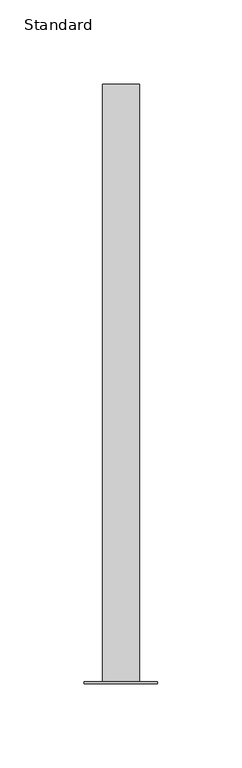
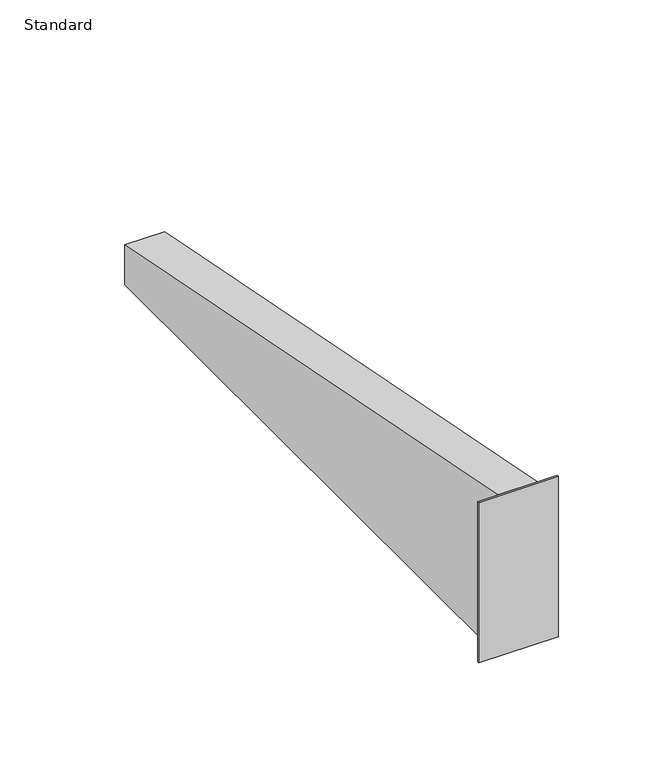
"""IFC4 building model written with IfcOpenShell, lengths in millimetres: electric appliance geometry, Bracket-Cantilever-Cablofil-Reinforced : Standard."""

from ifc_helpers import new_model, si_unit, frame, origin, origin_with_axes, place, context, project, spatial, polyline, outline, extrude, source, transform, mapped, element, save


def standard_c6b716ef(model_context):
    return source(origin(), model_context, "Body", "SweptSolid", [
        extrude(outline(polyline([(21.844, -176.6), (21.844, -177.8), (-21.844, -177.8), (-21.844, -176.6), (21.844, -176.6)])), origin_with_axes(), (0.0, 0.0, 1.0), 92.964),
        extrude(outline(polyline([(177.8, 23.241), (177.8, 0.0), (-176.6, 0.0), (-176.6, 92.964), (177.8, 23.241)])), frame((-10.922, 0.0, 0.0), z_axis=(1.0, 0.0, 0.0), x_axis=(0.0, 1.0, 0.0)), (0.0, 0.0, 1.0), 21.844),
    ])


if __name__ == "__main__":
    model = new_model("IFC4")
    model_context = context("Model", 3, world=origin())
    ifc_project = project(units=[si_unit("LENGTHUNIT", "METRE", prefix="MILLI")], contexts=[model_context])
    site = spatial("IfcSite", under=ifc_project)
    building = spatial("IfcBuilding", under=site)
    placement = place(None, origin())
    standard_shape = standard_c6b716ef(model_context)
    element("IfcElectricAppliance", 1, ObjectType="Bracket-Cantilever-Cablofil-Reinforced : Standard", at=placement, inside=building, context=model_context, shape_type="MappedRepresentation", body=[
        mapped(standard_shape, transform((0.0, 0.0, 0.0), x_axis=(1.0, 0.0, 0.0), y_axis=(0.0, 1.0, 0.0), z_axis=(0.0, 0.0, 1.0))),
    ])
    save(model, "model.ifc")
